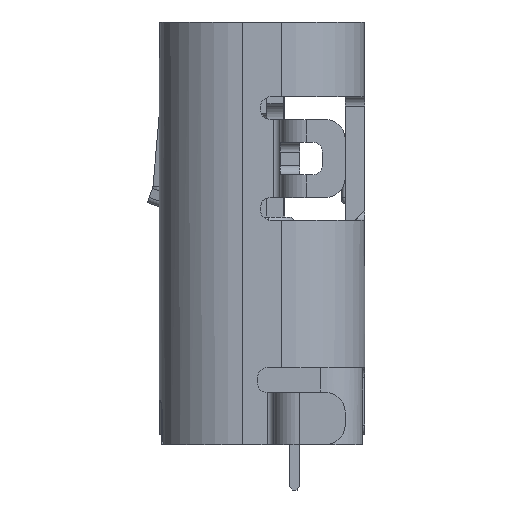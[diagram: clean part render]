
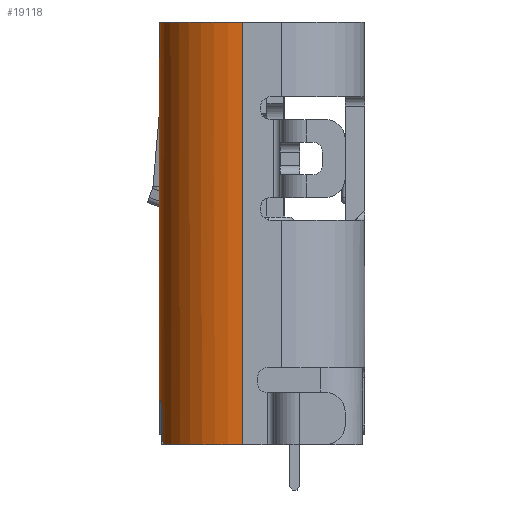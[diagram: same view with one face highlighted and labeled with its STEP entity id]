
A CAD part, left-side view. The second image highlights one B-rep face of the part: STEP entity #19118.
In plain terms, the highlighted cylindrical face has radius 1.28 mm (diameter 2.56 mm), a partial arc.
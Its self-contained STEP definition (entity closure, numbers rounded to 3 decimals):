
#656=CARTESIAN_POINT('',(-3.99,0.221,4.803));
#657=DIRECTION('',(0.,0.,-1.));
#658=DIRECTION('',(-0.141,0.99,0.));
#659=AXIS2_PLACEMENT_3D('',#656,#657,#658);
#2053=CARTESIAN_POINT('',(-3.99,0.221,10.633));
#2054=DIRECTION('',(0.,0.,1.));
#2055=DIRECTION('',(0.,1.,0.));
#2056=AXIS2_PLACEMENT_3D('',#2053,#2054,#2055);
#5714=CARTESIAN_POINT('',(-3.99,0.221,4.133));
#5715=DIRECTION('',(0.,0.,-1.));
#5716=DIRECTION('',(-1.,0.,0.));
#5717=AXIS2_PLACEMENT_3D('',#5714,#5715,#5716);
#5752=DIRECTION('',(0.,0.,-1.));
#5753=VECTOR('',#5752,0.37);
#5754=CARTESIAN_POINT('',(-4.32,1.458,4.653));
#5755=LINE('',#5754,#5753);
#5756=DIRECTION('',(0.,0.,-1.));
#5757=VECTOR('',#5756,5.83);
#5758=CARTESIAN_POINT('',(-3.99,1.501,10.633));
#5759=LINE('',#5758,#5757);
#5760=DIRECTION('',(0.,0.,1.));
#5761=VECTOR('',#5760,6.5);
#5762=CARTESIAN_POINT('',(-5.27,0.221,4.133));
#5763=LINE('',#5762,#5761);
#5777=CARTESIAN_POINT('',(-4.463,1.411,4.133));
#5778=CARTESIAN_POINT('',(-4.449,1.417,4.133));
#5779=CARTESIAN_POINT('',(-4.419,1.428,4.137));
#5780=CARTESIAN_POINT('',(-4.379,1.441,4.159));
#5781=CARTESIAN_POINT('',(-4.346,1.451,4.193));
#5782=CARTESIAN_POINT('',(-4.325,1.457,4.235));
#5783=CARTESIAN_POINT('',(-4.32,1.458,4.267));
#5784=CARTESIAN_POINT('',(-4.32,1.458,4.283));
#5795=CARTESIAN_POINT('',(-4.32,1.458,4.653));
#5796=CARTESIAN_POINT('',(-4.32,1.458,4.668));
#5797=CARTESIAN_POINT('',(-4.315,1.459,4.699));
#5798=CARTESIAN_POINT('',(-4.294,1.465,4.742));
#5799=CARTESIAN_POINT('',(-4.261,1.473,4.776));
#5800=CARTESIAN_POINT('',(-4.219,1.481,4.797));
#5801=CARTESIAN_POINT('',(-4.186,1.486,4.803));
#5802=CARTESIAN_POINT('',(-4.17,1.489,4.803));
#9638=CARTESIAN_POINT('',(-4.463,1.411,4.133));
#9640=VERTEX_POINT('',#9638);
#9802=CARTESIAN_POINT('',(-5.27,0.221,4.133));
#9803=VERTEX_POINT('',#9802);
#10129=CARTESIAN_POINT('',(-3.99,1.501,4.803));
#10131=VERTEX_POINT('',#10129);
#10238=CARTESIAN_POINT('',(-4.32,1.458,4.653));
#10239=CARTESIAN_POINT('',(-4.32,1.458,4.283));
#10240=VERTEX_POINT('',#10238);
#10241=VERTEX_POINT('',#10239);
#10282=CARTESIAN_POINT('',(-3.99,1.501,10.633));
#10283=VERTEX_POINT('',#10282);
#10988=CARTESIAN_POINT('',(-4.17,1.489,4.803));
#10989=VERTEX_POINT('',#10988);
#11277=CARTESIAN_POINT('',(-5.27,0.221,10.633));
#11279=VERTEX_POINT('',#11277);
#19100=CARTESIAN_POINT('',(-3.99,0.221,4.133));
#19101=DIRECTION('',(0.,0.,1.));
#19102=DIRECTION('',(0.,1.,0.));
#19103=AXIS2_PLACEMENT_3D('',#19100,#19101,#19102);
#19104=CYLINDRICAL_SURFACE('',#19103,1.28);
#19106=ORIENTED_EDGE('',*,*,#19105,.F.);
#19108=ORIENTED_EDGE('',*,*,#19107,.T.);
#19109=ORIENTED_EDGE('',*,*,#12387,.T.);
#19110=ORIENTED_EDGE('',*,*,#11781,.F.);
#19111=ORIENTED_EDGE('',*,*,#14111,.T.);
#19112=ORIENTED_EDGE('',*,*,#14179,.F.);
#19113=ORIENTED_EDGE('',*,*,#19072,.T.);
#19115=ORIENTED_EDGE('',*,*,#19114,.T.);
#19116=EDGE_LOOP('',(#19106,#19108,#19109,#19110,#19111,#19112,#19113,#19115));
#19117=FACE_OUTER_BOUND('',#19116,.F.);
#19118=ADVANCED_FACE('',(#19117),#19104,.T.);
#660=CIRCLE('',#659,1.28);
#2057=CIRCLE('',#2056,1.28);
#5718=CIRCLE('',#5717,1.28);
#5785=B_SPLINE_CURVE_WITH_KNOTS('',3,(#5777,#5778,#5779,#5780,#5781,#5782,#5783,
#5784),.UNSPECIFIED.,.F.,.F.,(4,1,1,1,1,4),(0.,0.2,0.4,0.6,0.8,1.),
.UNSPECIFIED.);
#5803=B_SPLINE_CURVE_WITH_KNOTS('',3,(#5795,#5796,#5797,#5798,#5799,#5800,#5801,
#5802),.UNSPECIFIED.,.F.,.F.,(4,1,1,1,1,4),(0.,0.2,0.4,0.6,0.8,1.),
.UNSPECIFIED.);
#11781=EDGE_CURVE('',#10283,#10131,#5759,.T.);
#12387=EDGE_CURVE('',#10989,#10131,#660,.T.);
#14111=EDGE_CURVE('',#10283,#11279,#2057,.T.);
#14179=EDGE_CURVE('',#9803,#11279,#5763,.T.);
#19072=EDGE_CURVE('',#9803,#9640,#5718,.T.);
#19105=EDGE_CURVE('',#10240,#10241,#5755,.T.);
#19107=EDGE_CURVE('',#10240,#10989,#5803,.T.);
#19114=EDGE_CURVE('',#9640,#10241,#5785,.T.);
